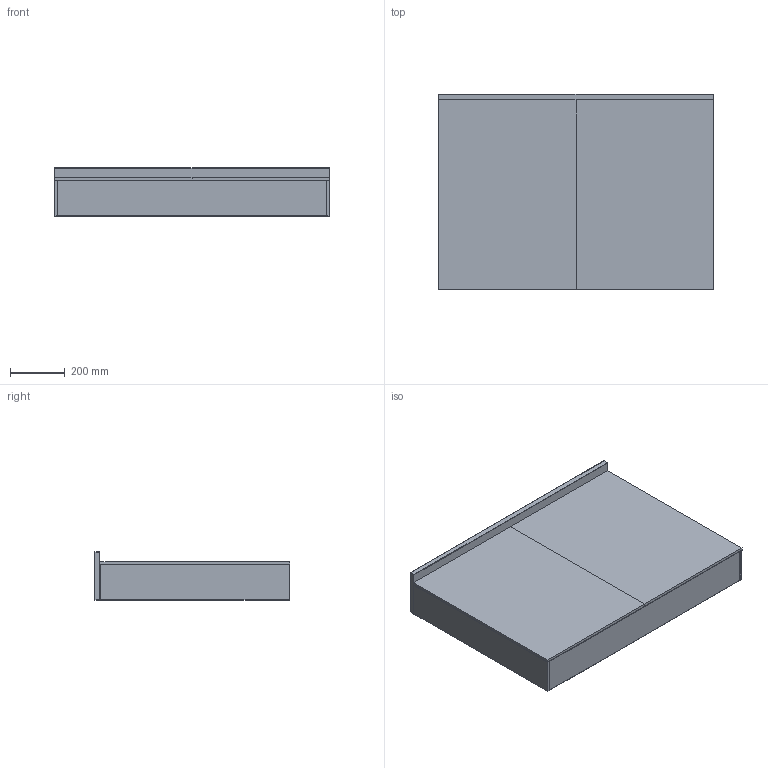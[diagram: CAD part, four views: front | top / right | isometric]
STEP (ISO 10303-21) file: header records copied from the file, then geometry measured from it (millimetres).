
FILE_DESCRIPTION (( 'STEP AP203' ), '1' );
FILE_NAME ('H2-MC-100-Shell-drawing.STEP', '2024-10-23T07:07:56', ( '' ), ( '' ), 'SwSTEP 2.0', 'SolidWorks 2024', '' );
FILE_SCHEMA (( 'CONFIG_CONTROL_DESIGN' ));
Length unit declared in the file: millimetre
Products named in the file (5): Botten-980x130; Sida-690x130x10; Spegeldörr-500x690x10; Topp-1000x175x20; H2-MC-100-Shell-drawing
Assembly tree (6 placements, depth 2):
  H2-MC-100-Shell-drawing
    Topp-1000x175x20
    Sida-690x130x10  x2
    Spegeldörr-500x690x10  x2
    Botten-980x130
Bounding box: 1000 x 710 x 175 mm (x, y, z)
Volume: 14228988 mm3; surface area: 2499680.8 mm2
Topology: 6 solids, 6 shells, 116 faces, 248 edges, 112 vertices
Faces by surface type: cylinder 48, plane 36, sphere 32
Entity records: 2603 total; most frequent: DIRECTION 414, CARTESIAN_POINT 329, ORIENTED_EDGE 312, AXIS2_PLACEMENT_3D 165, EDGE_CURVE 156, FACE_OUTER_BOUND 84, VECTOR 84, EDGE_LOOP 84
